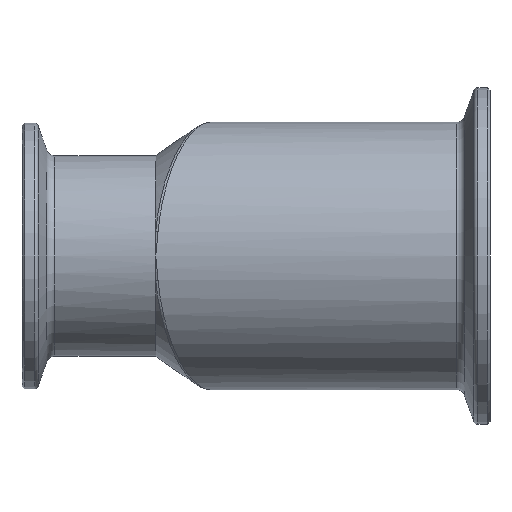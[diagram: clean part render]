
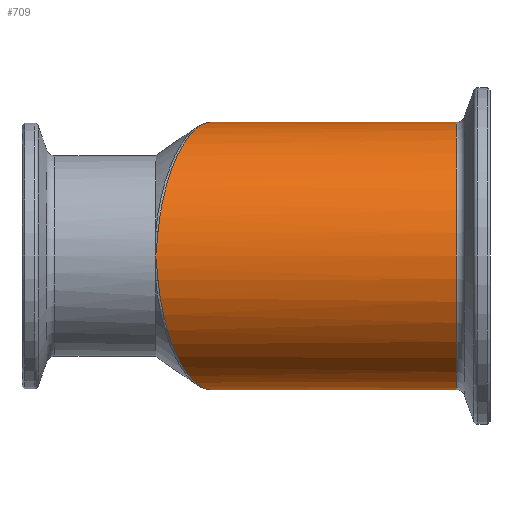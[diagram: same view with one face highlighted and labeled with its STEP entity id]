
A CAD part, front view. The second image highlights one B-rep face of the part: STEP entity #709.
In plain terms, the highlighted cylindrical face has radius 25.4 mm (diameter 50.8 mm), a partial arc.
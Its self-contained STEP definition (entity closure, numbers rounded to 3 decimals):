
#14 = CARTESIAN_POINT ( 'NONE',  ( 27.159, -22.17, -12.417 ) ) ;
#28 = CARTESIAN_POINT ( 'NONE',  ( 33.319, -7.129, -24.421 ) ) ;
#30 = B_SPLINE_CURVE_WITH_KNOTS ( 'NONE', 3,
 ( #2340, #358, #1375, #155 ),
 .UNSPECIFIED., .F., .F.,
 ( 4, 4 ),
 ( 0., 0.005 ),
 .UNSPECIFIED. ) ;
#55 = CARTESIAN_POINT ( 'NONE',  ( 34.604, -3.6, 25.154 ) ) ;
#61 = EDGE_CURVE ( 'NONE', #1199, #443, #951, .T. ) ;
#66 = CARTESIAN_POINT ( 'NONE',  ( 27.691, -20.99, 14.322 ) ) ;
#81 = CARTESIAN_POINT ( 'NONE',  ( -12.994, 0., 0. ) ) ;
#155 = CARTESIAN_POINT ( 'NONE',  ( 25.852, -24.976, -4.623 ) ) ;
#209 = B_SPLINE_CURVE_WITH_KNOTS ( 'NONE', 3,
 ( #2247, #1212, #2434, #1034, #2453, #1233, #14, #1445, #222, #1654, #427, #1854, #635, #2053, #840, #2259, #1047, #2463, #1240, #28, #1456, #232, #1663, #441, #1863, #643 ),
 .UNSPECIFIED., .F., .F.,
 ( 4, 2, 2, 2, 2, 2, 2, 2, 2, 2, 2, 2, 4 ),
 ( 0., 0.005, 0.007, 0.009, 0.014, 0.016, 0.018, 0.023, 0.025, 0.027, 0.032, 0.034, 0.037 ),
 .UNSPECIFIED. ) ;
#222 = CARTESIAN_POINT ( 'NONE',  ( 28.067, -20.148, -15.536 ) ) ;
#226 = B_SPLINE_CURVE_WITH_KNOTS ( 'NONE', 3,
 ( #1261, #1889, #2496, #1275, #55, #1490, #269, #1698, #479, #1897, #675, #2101, #881, #2301, #1087, #2510, #1284, #66, #1503, #279, #1706, #490, #1906, #683, #2111, #895 ),
 .UNSPECIFIED., .F., .F.,
 ( 4, 2, 2, 2, 2, 2, 2, 2, 2, 2, 2, 2, 4 ),
 ( 0.118, 0.12, 0.123, 0.127, 0.132, 0.136, 0.141, 0.142, 0.143, 0.145, 0.15, 0.152, 0.155 ),
 .UNSPECIFIED. ) ;
#230 = CARTESIAN_POINT ( 'NONE',  ( 25.717, -25.258, 3.096 ) ) ;
#232 = CARTESIAN_POINT ( 'NONE',  ( 34.599, -3.613, -25.152 ) ) ;
#258 = ORIENTED_EDGE ( 'NONE', *, *, #2071, .T. ) ;
#269 = CARTESIAN_POINT ( 'NONE',  ( 33.315, -7.138, 24.418 ) ) ;
#279 = CARTESIAN_POINT ( 'NONE',  ( 26.992, -22.542, 11.8 ) ) ;
#290 = ORIENTED_EDGE ( 'NONE', *, *, #1857, .F. ) ;
#307 = VECTOR ( 'NONE', #2420, 1000. ) ;
#358 = CARTESIAN_POINT ( 'NONE',  ( 25.558, -25.4, -1.547 ) ) ;
#405 = ORIENTED_EDGE ( 'NONE', *, *, #557, .T. ) ;
#427 = CARTESIAN_POINT ( 'NONE',  ( 28.912, -18.195, -17.738 ) ) ;
#435 = CARTESIAN_POINT ( 'NONE',  ( 25.558, -25.4, 1.549 ) ) ;
#441 = CARTESIAN_POINT ( 'NONE',  ( 35.368, -1.444, -25.369 ) ) ;
#443 = VERTEX_POINT ( 'NONE', #1325 ) ;
#479 = CARTESIAN_POINT ( 'NONE',  ( 31.786, -11.156, 22.865 ) ) ;
#490 = CARTESIAN_POINT ( 'NONE',  ( 26.311, -24.007, 8.33 ) ) ;
#538 = ORIENTED_EDGE ( 'NONE', *, *, #1648, .T. ) ;
#557 = EDGE_CURVE ( 'NONE', #562, #2182, #209, .T. ) ;
#562 = VERTEX_POINT ( 'NONE', #1834 ) ;
#582 = B_SPLINE_CURVE_WITH_KNOTS ( 'NONE', 3,
 ( #1660, #230, #435, #1860 ),
 .UNSPECIFIED., .F., .F.,
 ( 4, 4 ),
 ( 0., 0.005 ),
 .UNSPECIFIED. ) ;
#635 = CARTESIAN_POINT ( 'NONE',  ( 29.593, -16.586, -19.25 ) ) ;
#643 = CARTESIAN_POINT ( 'NONE',  ( 35.87, 0., -25.4 ) ) ;
#675 = CARTESIAN_POINT ( 'NONE',  ( 30.292, -14.901, 20.621 ) ) ;
#683 = CARTESIAN_POINT ( 'NONE',  ( 26.001, -24.662, 6.128 ) ) ;
#709 = ADVANCED_FACE ( 'NONE', ( #2441 ), #758, .T. ) ;
#758 = CYLINDRICAL_SURFACE ( 'NONE', #1571, 25.4 ) ;
#794 = VERTEX_POINT ( 'NONE', #2343 ) ;
#803 = EDGE_CURVE ( 'NONE', #794, #1199, #1302, .T. ) ;
#808 = CARTESIAN_POINT ( 'NONE',  ( 25.852, -24.976, 4.623 ) ) ;
#840 = CARTESIAN_POINT ( 'NONE',  ( 30.781, -13.697, -21.44 ) ) ;
#861 = CARTESIAN_POINT ( 'NONE',  ( 82.527, 0., 0. ) ) ;
#881 = CARTESIAN_POINT ( 'NONE',  ( 28.913, -18.198, 17.782 ) ) ;
#895 = CARTESIAN_POINT ( 'NONE',  ( 25.852, -24.976, 4.623 ) ) ;
#947 = ORIENTED_EDGE ( 'NONE', *, *, #2519, .T. ) ;
#951 = LINE ( 'NONE', #2188, #2094 ) ;
#973 = DIRECTION ( 'NONE',  ( -1., 0., 0. ) ) ;
#1034 = CARTESIAN_POINT ( 'NONE',  ( 26.555, -23.484, -9.706 ) ) ;
#1047 = CARTESIAN_POINT ( 'NONE',  ( 31.784, -11.154, -22.831 ) ) ;
#1065 = DIRECTION ( 'NONE',  ( 0., 0., 1. ) ) ;
#1083 = ORIENTED_EDGE ( 'NONE', *, *, #61, .T. ) ;
#1087 = CARTESIAN_POINT ( 'NONE',  ( 28.282, -19.651, 16.098 ) ) ;
#1199 = VERTEX_POINT ( 'NONE', #1619 ) ;
#1212 = CARTESIAN_POINT ( 'NONE',  ( 25.986, -24.695, -6.137 ) ) ;
#1225 = VERTEX_POINT ( 'NONE', #808 ) ;
#1233 = CARTESIAN_POINT ( 'NONE',  ( 26.995, -22.531, -11.751 ) ) ;
#1240 = CARTESIAN_POINT ( 'NONE',  ( 32.551, -9.162, -23.701 ) ) ;
#1261 = CARTESIAN_POINT ( 'NONE',  ( 35.87, 0., 25.4 ) ) ;
#1275 = CARTESIAN_POINT ( 'NONE',  ( 34.861, -2.879, 25.247 ) ) ;
#1284 = CARTESIAN_POINT ( 'NONE',  ( 27.981, -20.338, 15.221 ) ) ;
#1302 = CIRCLE ( 'NONE', #2229, 25.4 ) ;
#1307 = DIRECTION ( 'NONE',  ( 0., 0., 1. ) ) ;
#1325 = CARTESIAN_POINT ( 'NONE',  ( 35.87, 0., 25.4 ) ) ;
#1332 = CARTESIAN_POINT ( 'NONE',  ( 35.87, 0., -25.4 ) ) ;
#1375 = CARTESIAN_POINT ( 'NONE',  ( 25.717, -25.258, -3.096 ) ) ;
#1376 = LINE ( 'NONE', #2222, #307 ) ;
#1445 = CARTESIAN_POINT ( 'NONE',  ( 27.681, -21.017, -14.341 ) ) ;
#1456 = CARTESIAN_POINT ( 'NONE',  ( 33.831, -5.741, -24.784 ) ) ;
#1478 = VERTEX_POINT ( 'NONE', #1894 ) ;
#1490 = CARTESIAN_POINT ( 'NONE',  ( 33.829, -5.747, 24.784 ) ) ;
#1503 = CARTESIAN_POINT ( 'NONE',  ( 27.508, -21.398, 13.705 ) ) ;
#1514 = DIRECTION ( 'NONE',  ( -1., 0., 0. ) ) ;
#1571 = AXIS2_PLACEMENT_3D ( 'NONE', #81, #1514, #1307 ) ;
#1619 = CARTESIAN_POINT ( 'NONE',  ( 82.527, 0., 25.4 ) ) ;
#1648 = EDGE_CURVE ( 'NONE', #1478, #562, #30, .T. ) ;
#1654 = CARTESIAN_POINT ( 'NONE',  ( 28.695, -18.702, -17.203 ) ) ;
#1660 = CARTESIAN_POINT ( 'NONE',  ( 25.852, -24.976, 4.623 ) ) ;
#1663 = CARTESIAN_POINT ( 'NONE',  ( 34.856, -2.894, -25.245 ) ) ;
#1698 = CARTESIAN_POINT ( 'NONE',  ( 32.294, -9.843, 23.459 ) ) ;
#1706 = CARTESIAN_POINT ( 'NONE',  ( 26.689, -23.197, 10.458 ) ) ;
#1818 = ORIENTED_EDGE ( 'NONE', *, *, #803, .T. ) ;
#1834 = CARTESIAN_POINT ( 'NONE',  ( 25.852, -24.976, -4.623 ) ) ;
#1854 = CARTESIAN_POINT ( 'NONE',  ( 29.363, -17.134, -18.765 ) ) ;
#1857 = EDGE_CURVE ( 'NONE', #794, #2182, #1376, .T. ) ;
#1860 = CARTESIAN_POINT ( 'NONE',  ( 25.4, -25.4, 0. ) ) ;
#1863 = CARTESIAN_POINT ( 'NONE',  ( 35.62, -0.721, -25.4 ) ) ;
#1889 = CARTESIAN_POINT ( 'NONE',  ( 35.621, -0.72, 25.4 ) ) ;
#1894 = CARTESIAN_POINT ( 'NONE',  ( 25.4, -25.4, 0. ) ) ;
#1897 = CARTESIAN_POINT ( 'NONE',  ( 30.779, -13.702, 21.437 ) ) ;
#1906 = CARTESIAN_POINT ( 'NONE',  ( 26.197, -24.248, 7.601 ) ) ;
#2053 = CARTESIAN_POINT ( 'NONE',  ( 30.295, -14.893, -20.627 ) ) ;
#2054 = EDGE_LOOP ( 'NONE', ( #290, #1818, #1083, #258, #947, #538, #405 ) ) ;
#2071 = EDGE_CURVE ( 'NONE', #443, #1225, #226, .T. ) ;
#2094 = VECTOR ( 'NONE', #973, 1000. ) ;
#2101 = CARTESIAN_POINT ( 'NONE',  ( 29.36, -17.148, 18.794 ) ) ;
#2111 = CARTESIAN_POINT ( 'NONE',  ( 25.919, -24.835, 5.381 ) ) ;
#2182 = VERTEX_POINT ( 'NONE', #1332 ) ;
#2188 = CARTESIAN_POINT ( 'NONE',  ( -12.994, 0., 25.4 ) ) ;
#2222 = CARTESIAN_POINT ( 'NONE',  ( -12.994, 0., -25.4 ) ) ;
#2229 = AXIS2_PLACEMENT_3D ( 'NONE', #861, #2277, #1065 ) ;
#2247 = CARTESIAN_POINT ( 'NONE',  ( 25.852, -24.976, -4.623 ) ) ;
#2259 = CARTESIAN_POINT ( 'NONE',  ( 31.53, -11.804, -22.502 ) ) ;
#2277 = DIRECTION ( 'NONE',  ( -1., 0., 0. ) ) ;
#2301 = CARTESIAN_POINT ( 'NONE',  ( 28.386, -19.413, 16.384 ) ) ;
#2340 = CARTESIAN_POINT ( 'NONE',  ( 25.4, -25.4, 0. ) ) ;
#2343 = CARTESIAN_POINT ( 'NONE',  ( 82.527, 0., -25.4 ) ) ;
#2420 = DIRECTION ( 'NONE',  ( -1., 0., 0. ) ) ;
#2434 = CARTESIAN_POINT ( 'NONE',  ( 26.181, -24.284, -7.596 ) ) ;
#2441 = FACE_OUTER_BOUND ( 'NONE', #2054, .T. ) ;
#2453 = CARTESIAN_POINT ( 'NONE',  ( 26.693, -23.187, -10.396 ) ) ;
#2463 = CARTESIAN_POINT ( 'NONE',  ( 32.295, -9.831, -23.431 ) ) ;
#2496 = CARTESIAN_POINT ( 'NONE',  ( 35.369, -1.44, 25.369 ) ) ;
#2510 = CARTESIAN_POINT ( 'NONE',  ( 28.079, -20.113, 15.516 ) ) ;
#2519 = EDGE_CURVE ( 'NONE', #1225, #1478, #582, .T. ) ;
